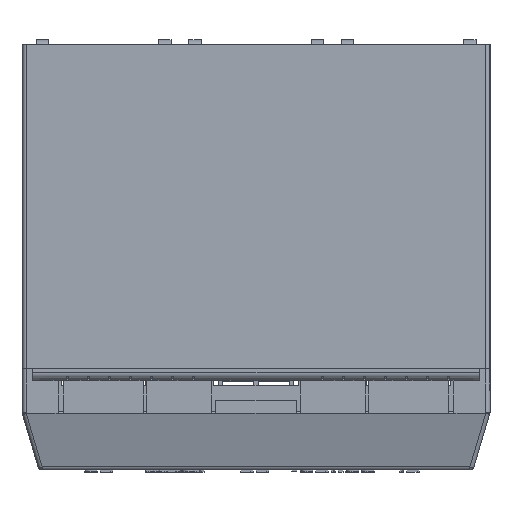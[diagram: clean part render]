
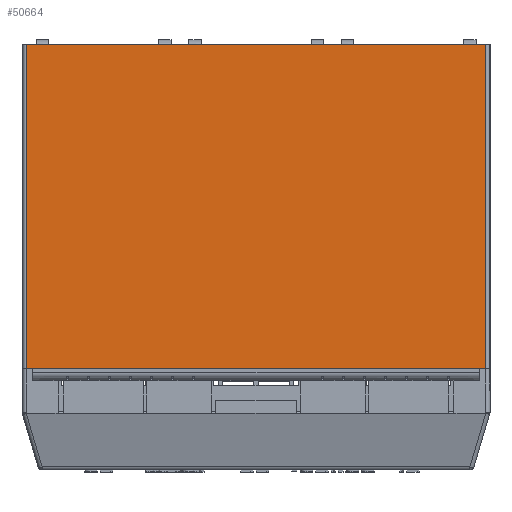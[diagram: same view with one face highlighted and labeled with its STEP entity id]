
A CAD part, left-side view. The second image highlights one B-rep face of the part: STEP entity #50664.
In plain terms, the highlighted planar face has unit normal (-1, 0, 0).
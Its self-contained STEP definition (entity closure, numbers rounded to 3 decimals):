
#6432 = LINE ( 'NONE', #47464, #12706 ) ;
#6803 = CARTESIAN_POINT ( 'NONE',  ( -160., 55.5, -50.5 ) ) ;
#7067 = VERTEX_POINT ( 'NONE', #24982 ) ;
#7117 = AXIS2_PLACEMENT_3D ( 'NONE', #6803, #71898, #65802 ) ;
#12706 = VECTOR ( 'NONE', #76095, 1000. ) ;
#17444 = CARTESIAN_POINT ( 'NONE',  ( -160., 54.5, 182.164 ) ) ;
#21235 = CARTESIAN_POINT ( 'NONE',  ( -160., 0., 50.5 ) ) ;
#21333 = ORIENTED_EDGE ( 'NONE', *, *, #24595, .F. ) ;
#24595 = EDGE_CURVE ( 'NONE', #63621, #7067, #68161, .T. ) ;
#24982 = CARTESIAN_POINT ( 'NONE',  ( -160., 54.5, 50.5 ) ) ;
#26012 = FACE_OUTER_BOUND ( 'NONE', #50604, .T. ) ;
#27257 = VECTOR ( 'NONE', #66651, 1000. ) ;
#27742 = VECTOR ( 'NONE', #41437, 1000. ) ;
#31706 = CARTESIAN_POINT ( 'NONE',  ( -160., -54.5, 50.5 ) ) ;
#40417 = VERTEX_POINT ( 'NONE', #31706 ) ;
#41437 = DIRECTION ( 'NONE',  ( 0., -1., 0. ) ) ;
#44858 = DIRECTION ( 'NONE',  ( 0., 0., 1. ) ) ;
#45619 = CARTESIAN_POINT ( 'NONE',  ( -160., -54.5, -26.5 ) ) ;
#46428 = PLANE ( 'NONE',  #7117 ) ;
#46816 = CARTESIAN_POINT ( 'NONE',  ( -160., 54.5, -26.5 ) ) ;
#47464 = CARTESIAN_POINT ( 'NONE',  ( -160., -54.5, -50.5 ) ) ;
#48978 = EDGE_CURVE ( 'NONE', #63621, #51109, #51083, .T. ) ;
#49664 = EDGE_CURVE ( 'NONE', #51109, #40417, #6432, .T. ) ;
#50604 = EDGE_LOOP ( 'NONE', ( #78497, #21333, #81519, #74839 ) ) ;
#50664 = ADVANCED_FACE ( 'NONE', ( #26012 ), #46428, .T. ) ;
#51083 = LINE ( 'NONE', #85764, #27257 ) ;
#51109 = VERTEX_POINT ( 'NONE', #45619 ) ;
#62921 = LINE ( 'NONE', #21235, #27742 ) ;
#63621 = VERTEX_POINT ( 'NONE', #46816 ) ;
#65312 = EDGE_CURVE ( 'NONE', #7067, #40417, #62921, .T. ) ;
#65802 = DIRECTION ( 'NONE',  ( 0., 0., 1. ) ) ;
#66064 = VECTOR ( 'NONE', #44858, 1000. ) ;
#66651 = DIRECTION ( 'NONE',  ( 0., -1., 0. ) ) ;
#68161 = LINE ( 'NONE', #17444, #66064 ) ;
#71898 = DIRECTION ( 'NONE',  ( -1., 0., 0. ) ) ;
#74839 = ORIENTED_EDGE ( 'NONE', *, *, #49664, .T. ) ;
#76095 = DIRECTION ( 'NONE',  ( 0., 0., 1. ) ) ;
#78497 = ORIENTED_EDGE ( 'NONE', *, *, #65312, .F. ) ;
#81519 = ORIENTED_EDGE ( 'NONE', *, *, #48978, .T. ) ;
#85764 = CARTESIAN_POINT ( 'NONE',  ( -160., -173., -26.5 ) ) ;
